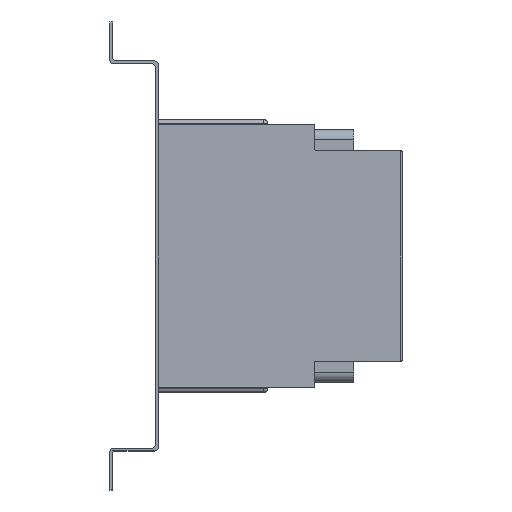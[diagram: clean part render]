
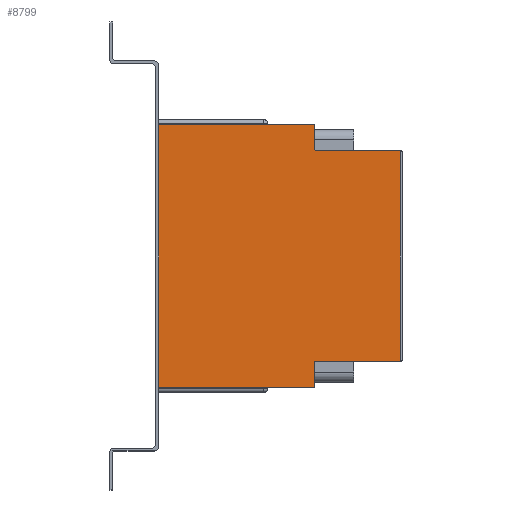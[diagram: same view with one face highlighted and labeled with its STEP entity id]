
A CAD part, left-side view. The second image highlights one B-rep face of the part: STEP entity #8799.
In plain terms, the highlighted planar face has unit normal (-1, 0, 0).
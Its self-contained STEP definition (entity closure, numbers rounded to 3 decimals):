
#306=PLANE('',#9310);
#622=FACE_OUTER_BOUND('',#1123,.T.);
#1123=EDGE_LOOP('',(#6094,#6095,#6096,#6097,#6098,#6099,#6100,#6101,#6102,
#6103,#6104));
#1696=LINE('',#12413,#2651);
#1715=LINE('',#12451,#2670);
#1716=LINE('',#12453,#2671);
#1717=LINE('',#12455,#2672);
#1718=LINE('',#12457,#2673);
#1719=LINE('',#12461,#2674);
#1720=LINE('',#12465,#2675);
#1721=LINE('',#12466,#2676);
#2651=VECTOR('',#10053,79.);
#2670=VECTOR('',#10074,12.5);
#2671=VECTOR('',#10075,44.);
#2672=VECTOR('',#10076,108.);
#2673=VECTOR('',#10077,43.);
#2674=VECTOR('',#10080,11.5);
#2675=VECTOR('',#10083,79.);
#2676=VECTOR('',#10084,135.);
#3591=CIRCLE('',#9307,1.);
#3593=CIRCLE('',#9311,1.);
#3594=CIRCLE('',#9312,1.);
#3855=VERTEX_POINT('',#12403);
#3856=VERTEX_POINT('',#12404);
#3859=VERTEX_POINT('',#12412);
#3877=VERTEX_POINT('',#12450);
#3878=VERTEX_POINT('',#12452);
#3879=VERTEX_POINT('',#12454);
#3880=VERTEX_POINT('',#12456);
#3881=VERTEX_POINT('',#12458);
#3882=VERTEX_POINT('',#12460);
#3883=VERTEX_POINT('',#12462);
#3884=VERTEX_POINT('',#12464);
#4744=EDGE_CURVE('',#3855,#3856,#3591,.T.);
#4748=EDGE_CURVE('',#3859,#3856,#1696,.T.);
#4767=EDGE_CURVE('',#3855,#3877,#1715,.T.);
#4768=EDGE_CURVE('',#3877,#3878,#1716,.T.);
#4769=EDGE_CURVE('',#3879,#3878,#1717,.T.);
#4770=EDGE_CURVE('',#3879,#3880,#1718,.T.);
#4771=EDGE_CURVE('',#3881,#3880,#3593,.T.);
#4772=EDGE_CURVE('',#3881,#3882,#1719,.T.);
#4773=EDGE_CURVE('',#3883,#3882,#3594,.T.);
#4774=EDGE_CURVE('',#3883,#3884,#1720,.T.);
#4775=EDGE_CURVE('',#3859,#3884,#1721,.T.);
#6094=ORIENTED_EDGE('',*,*,#4744,.F.);
#6095=ORIENTED_EDGE('',*,*,#4767,.T.);
#6096=ORIENTED_EDGE('',*,*,#4768,.T.);
#6097=ORIENTED_EDGE('',*,*,#4769,.F.);
#6098=ORIENTED_EDGE('',*,*,#4770,.T.);
#6099=ORIENTED_EDGE('',*,*,#4771,.F.);
#6100=ORIENTED_EDGE('',*,*,#4772,.T.);
#6101=ORIENTED_EDGE('',*,*,#4773,.F.);
#6102=ORIENTED_EDGE('',*,*,#4774,.T.);
#6103=ORIENTED_EDGE('',*,*,#4775,.F.);
#6104=ORIENTED_EDGE('',*,*,#4748,.T.);
#8799=ADVANCED_FACE('',(#622),#306,.T.);
#9307=AXIS2_PLACEMENT_3D('',#12405,#10045,#10046);
#9310=AXIS2_PLACEMENT_3D('',#12449,#10072,#10073);
#9311=AXIS2_PLACEMENT_3D('',#12459,#10078,#10079);
#9312=AXIS2_PLACEMENT_3D('',#12463,#10081,#10082);
#10045=DIRECTION('center_axis',(1.,0.,0.));
#10046=DIRECTION('ref_axis',(0.,-0.707,-0.707));
#10053=DIRECTION('',(0.,-1.,0.));
#10072=DIRECTION('center_axis',(-1.,0.,0.));
#10073=DIRECTION('ref_axis',(0.,-1.,0.));
#10074=DIRECTION('',(0.,0.,1.));
#10075=DIRECTION('',(0.,-1.,0.));
#10076=DIRECTION('',(0.,0.,-1.));
#10077=DIRECTION('',(0.,1.,0.));
#10078=DIRECTION('center_axis',(-1.,0.,0.));
#10079=DIRECTION('ref_axis',(0.,0.707,-0.707));
#10080=DIRECTION('',(0.,0.,1.));
#10081=DIRECTION('center_axis',(1.,0.,0.));
#10082=DIRECTION('ref_axis',(0.,-0.707,0.707));
#10083=DIRECTION('',(0.,1.,0.));
#10084=DIRECTION('',(0.,0.,1.));
#12403=CARTESIAN_POINT('',(53.145,-234.265,30.));
#12404=CARTESIAN_POINT('',(53.145,-233.265,29.));
#12405=CARTESIAN_POINT('Origin',(53.145,-233.265,30.));
#12412=CARTESIAN_POINT('',(53.145,-154.265,29.));
#12413=CARTESIAN_POINT('',(53.145,-154.265,29.));
#12449=CARTESIAN_POINT('Origin',(53.145,-214.428,96.5));
#12450=CARTESIAN_POINT('',(53.145,-234.265,42.5));
#12451=CARTESIAN_POINT('',(53.145,-234.265,29.));
#12452=CARTESIAN_POINT('',(53.145,-278.265,42.5));
#12453=CARTESIAN_POINT('',(53.145,-234.265,42.5));
#12454=CARTESIAN_POINT('',(53.145,-278.265,150.5));
#12455=CARTESIAN_POINT('',(53.145,-278.265,69.5));
#12456=CARTESIAN_POINT('',(53.145,-235.265,150.5));
#12457=CARTESIAN_POINT('',(53.145,-279.265,150.5));
#12458=CARTESIAN_POINT('',(53.145,-234.265,151.5));
#12459=CARTESIAN_POINT('Origin',(53.145,-235.265,151.5));
#12460=CARTESIAN_POINT('',(53.145,-234.265,163.));
#12461=CARTESIAN_POINT('',(53.145,-234.265,150.5));
#12462=CARTESIAN_POINT('',(53.145,-233.265,164.));
#12463=CARTESIAN_POINT('Origin',(53.145,-233.265,163.));
#12464=CARTESIAN_POINT('',(53.145,-154.265,164.));
#12465=CARTESIAN_POINT('',(53.145,-234.265,164.));
#12466=CARTESIAN_POINT('',(53.145,-154.265,146.5));
